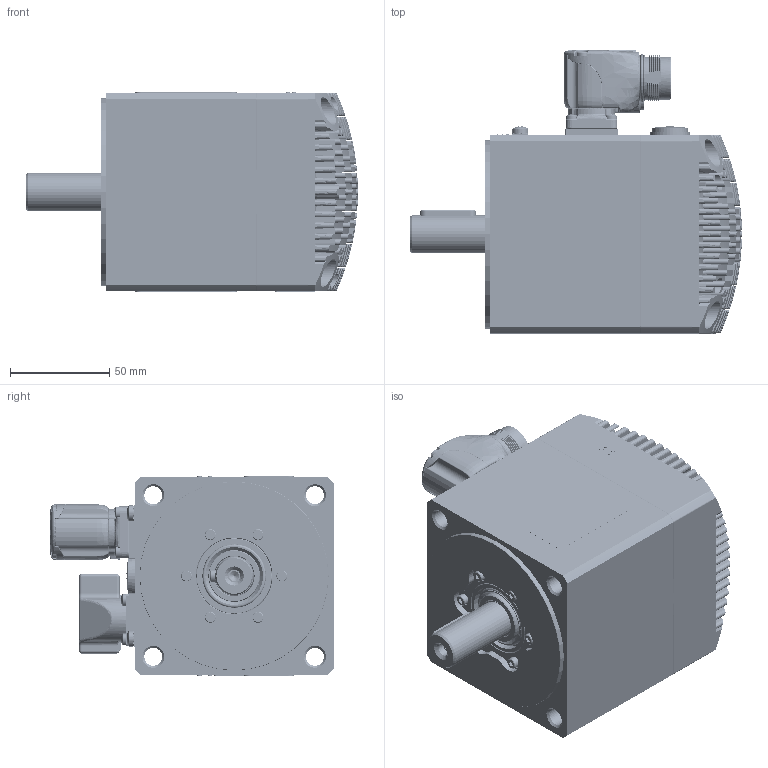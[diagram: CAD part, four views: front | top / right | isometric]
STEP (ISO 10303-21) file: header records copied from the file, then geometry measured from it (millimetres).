
FILE_DESCRIPTION((''),'2;1');
FILE_NAME('32190015646_ASM','2022-04-13T09:02:00',('gabrielec'),(''),'CREO PARAMETRIC BY PTC INC, 2021304','CREO PARAMETRIC BY PTC INC, 2021304','');
FILE_SCHEMA(('AP242_MANAGED_MODEL_BASED_3D_ENGINEERING_MIM_LF { 1 0 10303 442 1 1 4 }'));
Products named in the file (36): 50992N-0; 32149915563_ASM; 22320015066; 22320015066_ASM; 32050015010_ASM; 32060015505_ASM; 51941N-1; 32090015022_ASM; NRG_001; M3X16_GBT70-1; GB_T862_1; M4X8_GBT818_CU; 32159915173_ASM; 22160015160; MENTOR-1292_9013; CEMBRE_FD9; CEMBRE_2053M16N; 32150015177_ASM; UNI7687_M3X8_INOX; CAN_OPEN; 33200203857_ASM; 31500203857_AF1_ASM; 50941N-0; UNI7687_M3X6_INOX; UNI5931_M3X6_INOX; 22210015021; 32150015175_ASM; UNI5931_M4X16; LIP_SEAL_TW05; 22250015024; 22250015126; 43500000229; 43500000050; L_6X6-28_UNI6604; PHOENIX_1605512; 32190015646_ASM
Assembly tree (63 placements, depth 7):
  32190015646_ASM
    32159915173_ASM
      32149915563_ASM
        50992N-0
      32090015022_ASM
        32060015505_ASM
          32050015010_ASM
            22320015066_ASM
              22320015066
        51941N-1
      NRG_001  x6
      M3X16_GBT70-1  x6
      GB_T862_1  x2
      M4X8_GBT818_CU  x2
    32150015177_ASM
      22160015160
      MENTOR-1292_9013  x8
      CEMBRE_FD9
      CEMBRE_2053M16N
    UNI7687_M3X8_INOX  x4
    31500203857_AF1_ASM
      33200203857_ASM
        CAN_OPEN
    50941N-0  x2
    UNI7687_M3X6_INOX  x3
    UNI5931_M3X6_INOX
    32150015175_ASM
      22210015021
    UNI5931_M4X16  x4
    LIP_SEAL_TW05
    22250015024
    22250015126
    43500000229
    43500000050
    L_6X6-28_UNI6604
    PHOENIX_1605512
Bounding box: 167 x 142.41 x 100.8 mm (x, y, z)
Volume: 500223.8 mm3; surface area: 252372.3 mm2
Topology: 73 solids, 99 shells, 4362 faces, 10961 edges, 6936 vertices
Faces by surface type: plane 1463, cylinder 1035, cone 651, bspline 596, torus 352, sphere 243, revolution 11, extrusion 11
Entity records: 188559 total; most frequent: CARTESIAN_POINT 66379, ORIENTED_EDGE 19230, DIRECTION 17296, PRESENTATION_STYLE_ASSIGNMENT 9926, STYLED_ITEM 9696, EDGE_CURVE 9668, CURVE_STYLE 9624, AXIS2_PLACEMENT_3D 6750
